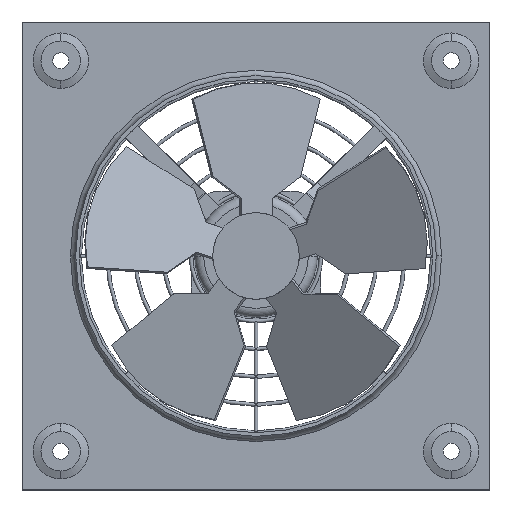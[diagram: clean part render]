
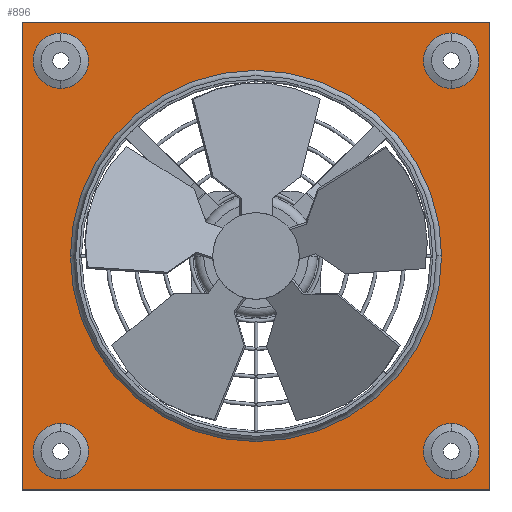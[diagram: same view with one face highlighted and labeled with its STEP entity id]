
A CAD part, top view. The second image highlights one B-rep face of the part: STEP entity #896.
In plain terms, the highlighted planar face has unit normal (0, 0, 1).
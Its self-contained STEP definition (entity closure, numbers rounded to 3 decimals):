
#896=ADVANCED_FACE('',(#1829,#1830,#1831,#1832,#1833,#1834),#1835,.T.);
#1829=FACE_BOUND('',#2766,.T.);
#1830=FACE_BOUND('',#2767,.T.);
#1831=FACE_BOUND('',#2768,.T.);
#1832=FACE_BOUND('',#2769,.T.);
#1833=FACE_OUTER_BOUND('',#2770,.T.);
#1834=FACE_BOUND('',#2771,.T.);
#1835=PLANE('',#2772);
#2766=EDGE_LOOP('',(#5582,#5583));
#2767=EDGE_LOOP('',(#5584,#5585));
#2768=EDGE_LOOP('',(#5586,#5587));
#2769=EDGE_LOOP('',(#5588,#5589));
#2770=EDGE_LOOP('',(#5590,#5591,#5592,#5593));
#2771=EDGE_LOOP('',(#5594,#5595,#5596));
#2772=AXIS2_PLACEMENT_3D('',#5597,#5598,#5599);
#5582=ORIENTED_EDGE('',*,*,#6746,.T.);
#5583=ORIENTED_EDGE('',*,*,#5924,.T.);
#5584=ORIENTED_EDGE('',*,*,#6750,.T.);
#5585=ORIENTED_EDGE('',*,*,#5919,.T.);
#5586=ORIENTED_EDGE('',*,*,#6754,.T.);
#5587=ORIENTED_EDGE('',*,*,#5914,.T.);
#5588=ORIENTED_EDGE('',*,*,#6758,.T.);
#5589=ORIENTED_EDGE('',*,*,#5909,.T.);
#5590=ORIENTED_EDGE('',*,*,#6775,.T.);
#5591=ORIENTED_EDGE('',*,*,#6776,.T.);
#5592=ORIENTED_EDGE('',*,*,#6777,.T.);
#5593=ORIENTED_EDGE('',*,*,#6778,.T.);
#5594=ORIENTED_EDGE('',*,*,#6779,.F.);
#5595=ORIENTED_EDGE('',*,*,#6780,.F.);
#5596=ORIENTED_EDGE('',*,*,#5880,.F.);
#5597=CARTESIAN_POINT('',(0.0,0.0,8.55));
#5598=DIRECTION('',(0.0,0.0,1.0));
#5599=DIRECTION('',(1.0,0.0,0.0));
#5880=EDGE_CURVE('',#7162,#7164,#7165,.T.);
#5909=EDGE_CURVE('',#7216,#7213,#7217,.T.);
#5914=EDGE_CURVE('',#7225,#7222,#7226,.T.);
#5919=EDGE_CURVE('',#7234,#7231,#7235,.T.);
#5924=EDGE_CURVE('',#7243,#7240,#7244,.T.);
#6746=EDGE_CURVE('',#7240,#7243,#8383,.T.);
#6750=EDGE_CURVE('',#7231,#7234,#8387,.T.);
#6754=EDGE_CURVE('',#7222,#7225,#8391,.T.);
#6758=EDGE_CURVE('',#7213,#7216,#8395,.T.);
#6775=EDGE_CURVE('',#8412,#8413,#8414,.T.);
#6776=EDGE_CURVE('',#8413,#8415,#8416,.T.);
#6777=EDGE_CURVE('',#8415,#8417,#8418,.T.);
#6778=EDGE_CURVE('',#8417,#8412,#8419,.T.);
#6779=EDGE_CURVE('',#8420,#7162,#8421,.T.);
#6780=EDGE_CURVE('',#7164,#8420,#8422,.T.);
#7162=VERTEX_POINT('',#11914);
#7164=VERTEX_POINT('',#11916);
#7165=CIRCLE('',#11917,105.5);
#7213=VERTEX_POINT('',#11975);
#7216=VERTEX_POINT('',#11979);
#7217=CIRCLE('',#11980,15.75);
#7222=VERTEX_POINT('',#11986);
#7225=VERTEX_POINT('',#11990);
#7226=CIRCLE('',#11991,15.75);
#7231=VERTEX_POINT('',#11997);
#7234=VERTEX_POINT('',#12001);
#7235=CIRCLE('',#12002,15.75);
#7240=VERTEX_POINT('',#12008);
#7243=VERTEX_POINT('',#12012);
#7244=CIRCLE('',#12013,15.75);
#8383=CIRCLE('',#16403,15.75);
#8387=CIRCLE('',#16407,15.75);
#8391=CIRCLE('',#16411,15.75);
#8395=CIRCLE('',#16415,15.75);
#8412=VERTEX_POINT('',#16432);
#8413=VERTEX_POINT('',#16433);
#8414=LINE('',#16434,#16435);
#8415=VERTEX_POINT('',#16436);
#8416=LINE('',#16437,#16438);
#8417=VERTEX_POINT('',#16439);
#8418=LINE('',#16440,#16441);
#8419=LINE('',#16442,#16443);
#8420=VERTEX_POINT('',#16444);
#8421=CIRCLE('',#16445,105.5);
#8422=CIRCLE('',#16446,105.5);
#11914=CARTESIAN_POINT('',(-105.5,0.,8.55));
#11916=CARTESIAN_POINT('',(105.5,0.,8.55));
#11917=AXIS2_PLACEMENT_3D('',#16669,#16670,#16671);
#11975=CARTESIAN_POINT('',(-111.0,-95.25,8.55));
#11979=CARTESIAN_POINT('',(-111.0,-126.75,8.55));
#11980=AXIS2_PLACEMENT_3D('',#16716,#16717,#16718);
#11986=CARTESIAN_POINT('',(-111.0,126.75,8.55));
#11990=CARTESIAN_POINT('',(-111.0,95.25,8.55));
#11991=AXIS2_PLACEMENT_3D('',#16724,#16725,#16726);
#11997=CARTESIAN_POINT('',(111.0,-95.25,8.55));
#12001=CARTESIAN_POINT('',(111.0,-126.75,8.55));
#12002=AXIS2_PLACEMENT_3D('',#16732,#16733,#16734);
#12008=CARTESIAN_POINT('',(111.0,126.75,8.55));
#12012=CARTESIAN_POINT('',(111.0,95.25,8.55));
#12013=AXIS2_PLACEMENT_3D('',#16740,#16741,#16742);
#16403=AXIS2_PLACEMENT_3D('',#17539,#17540,#17541);
#16407=AXIS2_PLACEMENT_3D('',#17545,#17546,#17547);
#16411=AXIS2_PLACEMENT_3D('',#17551,#17552,#17553);
#16415=AXIS2_PLACEMENT_3D('',#17557,#17558,#17559);
#16432=CARTESIAN_POINT('',(133.0,-133.0,8.55));
#16433=CARTESIAN_POINT('',(133.0,133.0,8.55));
#16434=CARTESIAN_POINT('',(133.0,0.0,8.55));
#16435=VECTOR('',#17575,1.0);
#16436=CARTESIAN_POINT('',(-133.0,133.0,8.55));
#16437=CARTESIAN_POINT('',(0.0,133.0,8.55));
#16438=VECTOR('',#17576,1.0);
#16439=CARTESIAN_POINT('',(-133.0,-133.0,8.55));
#16440=CARTESIAN_POINT('',(-133.0,0.0,8.55));
#16441=VECTOR('',#17577,1.0);
#16442=CARTESIAN_POINT('',(0.0,-133.0,8.55));
#16443=VECTOR('',#17578,1.0);
#16444=CARTESIAN_POINT('',(0.,105.5,8.55));
#16445=AXIS2_PLACEMENT_3D('',#17579,#17580,#17581);
#16446=AXIS2_PLACEMENT_3D('',#17582,#17583,#17584);
#16669=CARTESIAN_POINT('',(0.,0.0,8.55));
#16670=DIRECTION('',(0.,-0.0,1.0));
#16671=DIRECTION('',(0.0,1.0,0.0));
#16716=CARTESIAN_POINT('',(-111.0,-111.0,8.55));
#16717=DIRECTION('',(0.0,0.0,-1.0));
#16718=DIRECTION('',(0.0,1.0,0.0));
#16724=CARTESIAN_POINT('',(-111.0,111.0,8.55));
#16725=DIRECTION('',(0.0,0.0,-1.0));
#16726=DIRECTION('',(0.0,1.0,0.0));
#16732=CARTESIAN_POINT('',(111.0,-111.0,8.55));
#16733=DIRECTION('',(0.0,0.0,-1.0));
#16734=DIRECTION('',(0.0,1.0,0.0));
#16740=CARTESIAN_POINT('',(111.0,111.0,8.55));
#16741=DIRECTION('',(0.0,0.0,-1.0));
#16742=DIRECTION('',(0.0,1.0,0.0));
#17539=CARTESIAN_POINT('',(111.0,111.0,8.55));
#17540=DIRECTION('',(0.0,0.0,-1.0));
#17541=DIRECTION('',(0.0,1.0,0.0));
#17545=CARTESIAN_POINT('',(111.0,-111.0,8.55));
#17546=DIRECTION('',(0.0,0.0,-1.0));
#17547=DIRECTION('',(0.0,1.0,0.0));
#17551=CARTESIAN_POINT('',(-111.0,111.0,8.55));
#17552=DIRECTION('',(0.0,0.0,-1.0));
#17553=DIRECTION('',(0.0,1.0,0.0));
#17557=CARTESIAN_POINT('',(-111.0,-111.0,8.55));
#17558=DIRECTION('',(0.0,0.0,-1.0));
#17559=DIRECTION('',(0.0,1.0,0.0));
#17575=DIRECTION('',(0.0,1.0,0.0));
#17576=DIRECTION('',(-1.0,0.0,0.0));
#17577=DIRECTION('',(0.0,-1.0,0.0));
#17578=DIRECTION('',(1.0,0.0,0.0));
#17579=CARTESIAN_POINT('',(0.,0.0,8.55));
#17580=DIRECTION('',(0.,-0.0,1.0));
#17581=DIRECTION('',(0.0,1.0,0.0));
#17582=CARTESIAN_POINT('',(0.,0.0,8.55));
#17583=DIRECTION('',(0.,-0.0,1.0));
#17584=DIRECTION('',(0.0,1.0,0.0));
